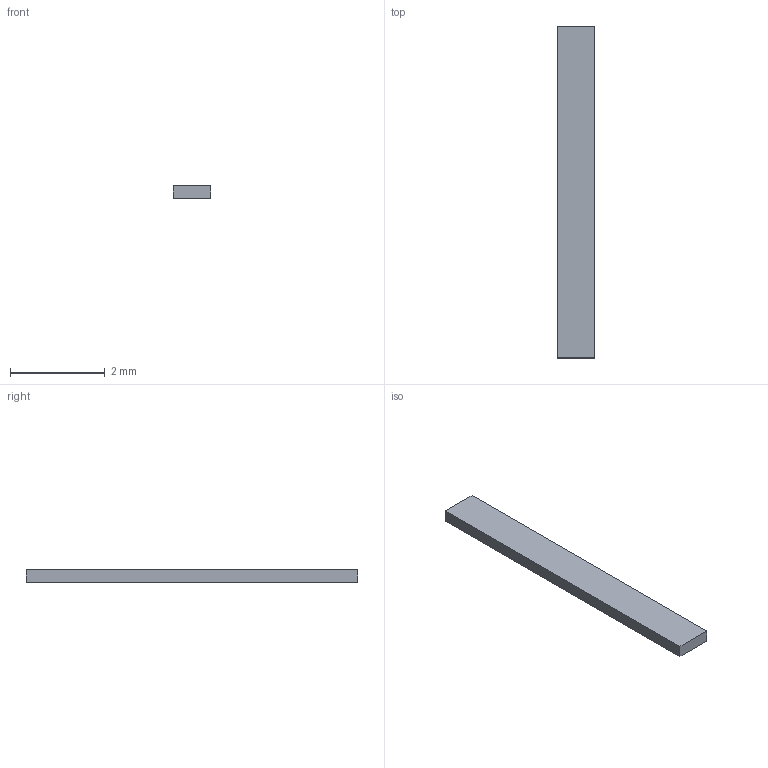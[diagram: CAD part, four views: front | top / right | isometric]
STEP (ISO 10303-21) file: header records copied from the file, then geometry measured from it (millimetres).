
FILE_DESCRIPTION(('Open CASCADE Model'),'2;1');
FILE_NAME('C27_UC1_PCB_Front_Seat_2','2026-09-09T20:28:18',('Author'),( 'Open CASCADE'),'Open CASCADE STEP processor 7.9','build123d', 'Unknown');
FILE_SCHEMA(('AUTOMOTIVE_DESIGN { 1 0 10303 214 1 1 1 1 }'));
Length unit declared in the file: millimetre
Products named in the file (1): C27_UC1_PCB_Front_Seat_2
Bounding box: 0.8 x 7 x 0.26 mm (x, y, z)
Volume: 1.5 mm3; surface area: 15.3 mm2
Topology: 1 solids, 1 shells, 6 faces, 12 edges, 8 vertices
Faces by surface type: plane 6
Entity records: 322 total; most frequent: CARTESIAN_POINT 51, DIRECTION 50, LINE 36, VECTOR 36, ORIENTED_EDGE 24, PCURVE 24, DEFINITIONAL_REPRESENTATION 24, EDGE_CURVE 12
